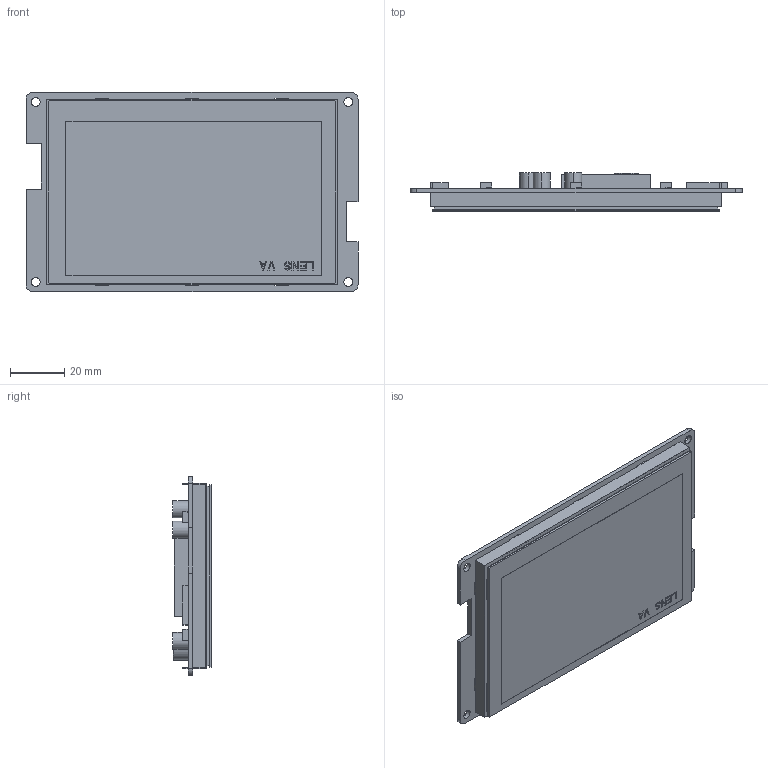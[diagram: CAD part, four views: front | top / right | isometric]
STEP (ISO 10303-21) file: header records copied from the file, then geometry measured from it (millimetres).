
FILE_DESCRIPTION((''),'2;1');
FILE_NAME('ASM0001_ASM','2019-08-27T',('Administrator'),(''),'PRO/ENGINEER BY PARAMETRIC TECHNOLOGY CORPORATION, 2011310','PRO/ENGINEER BY PARAMETRIC TECHNOLOGY CORPORATION, 2011310','');
FILE_SCHEMA(('CONFIG_CONTROL_DESIGN','SHAPE_APPEARANCE_LAYERS_GROUPS'));
Length unit declared in the file: millimetre
Products named in the file (5): TK043000; 043IPS; CTP; PCB-20190816; ASM0001_ASM
Assembly tree (4 placements, depth 2):
  ASM0001_ASM
    TK043000
    043IPS
    CTP
    PCB-20190816
Bounding box: 121.92 x 14.08 x 73.15 mm (x, y, z)
Volume: 51798.1 mm3; surface area: 57143.6 mm2
Topology: 4 solids, 4 shells, 372 faces, 1029 edges, 686 vertices
Faces by surface type: plane 313, cylinder 59
Entity records: 13260 total; most frequent: CARTESIAN_POINT 2096, ORIENTED_EDGE 2058, DIRECTION 1909, EDGE_CURVE 1029, VECTOR 911, LINE 911, VERTEX_POINT 686, AXIS2_PLACEMENT_3D 499
